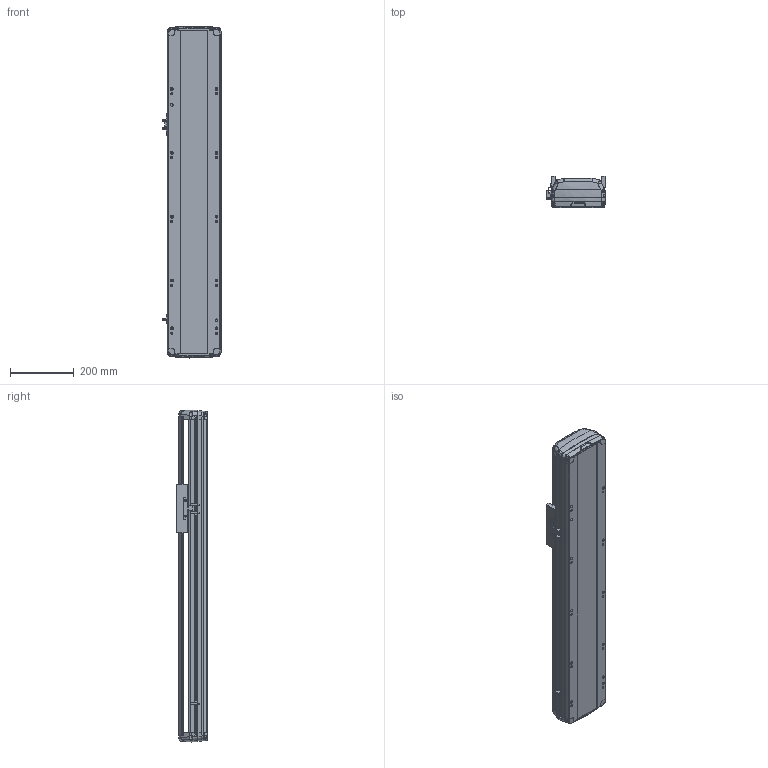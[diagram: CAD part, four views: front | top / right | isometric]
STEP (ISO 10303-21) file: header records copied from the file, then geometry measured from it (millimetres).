
FILE_DESCRIPTION (( 'STEP AP214' ), '1' );
FILE_NAME ('RTH17-XX-600-B-M40B-C4.STEP', '2025-10-24T09:15:45', ( '' ), ( '' ), 'SwSTEP 2.0', 'SolidWorks 2018', '' );
FILE_SCHEMA (( 'AUTOMOTIVE_DESIGN' ));
Length unit declared in the file: millimetre
Products named in the file (7): N_RTH17-M-007B上盖^RTH17-XX-XX-B-M40B-C4（方程式）; RTH17-XX-600-B-M40B-C4; N_RTH17-M-011B底座^RTH17-XX-XX-B-M40B-C4（方程式）; N_RTH17-E-004丝杆螺母连接座^RTH17-XX-XX-B-M40B-C4（方程式）; N_RTH17-GY-001P^RTH17-XX-XX-B-M40B-C4（方程式）; N_OMRON EE-SX672 換覜ん^RTH17-XX-XX-B-M40B-C4ㄗ源最宒ㄘ; N_RTH-L-012 感应片(外置)^RTH17-XX-XX-B-M40B-C4（方程式）
Assembly tree (9 placements, depth 2):
  RTH17-XX-600-B-M40B-C4
    N_RTH17-M-011B底座^RTH17-XX-XX-B-M40B-C4（方程式）
    N_RTH17-M-007B上盖^RTH17-XX-XX-B-M40B-C4（方程式）
    N_OMRON EE-SX672 換覜ん^RTH17-XX-XX-B-M40B-C4ㄗ源最宒ㄘ  x3
    N_RTH-L-012 感应片(外置)^RTH17-XX-XX-B-M40B-C4（方程式）
    N_RTH17-E-004丝杆螺母连接座^RTH17-XX-XX-B-M40B-C4（方程式）
    N_RTH17-GY-001P^RTH17-XX-XX-B-M40B-C4（方程式）  x2
Bounding box: 183.5 x 97 x 1039.88 mm (x, y, z)
Volume: 7699746.4 mm3; surface area: 1083245.2 mm2
Topology: 7 solids, 11 shells, 1720 faces, 4826 edges, 3134 vertices
Faces by surface type: plane 809, cylinder 445, bspline 420, cone 28, torus 18
Entity records: 40278 total; most frequent: CARTESIAN_POINT 16789, ORIENTED_EDGE 5156, DIRECTION 4066, EDGE_CURVE 2582, VERTEX_POINT 1688, LINE 1418, VECTOR 1418, AXIS2_PLACEMENT_3D 1324
